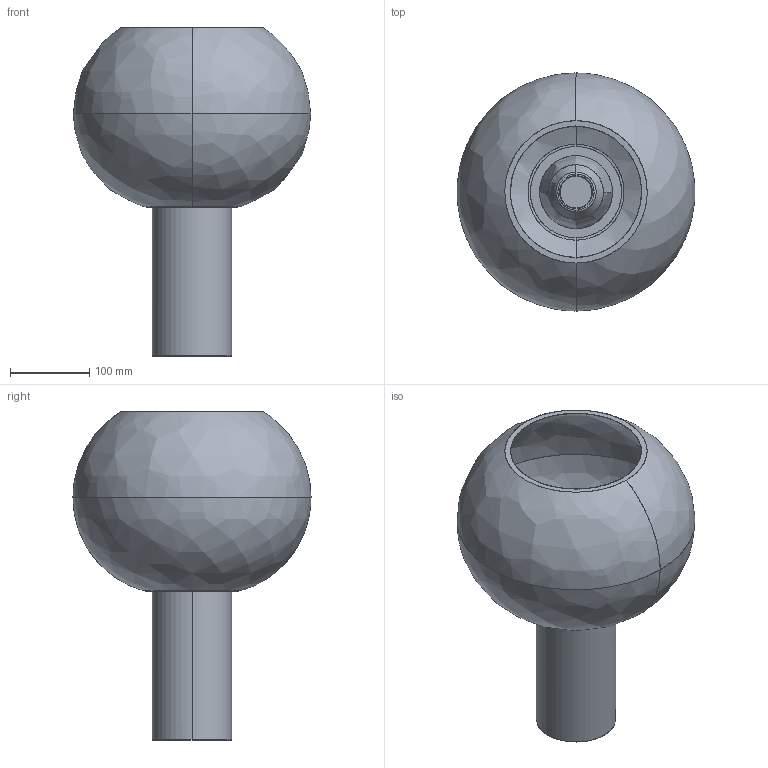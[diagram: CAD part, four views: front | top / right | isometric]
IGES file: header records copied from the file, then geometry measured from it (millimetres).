
Global section: file name: 93HF:\foscarini\RS\3D-2D\FOSCARINI\CATALOGO 2015\BUDS\3d (3ds; native system: dxf; preprocessor: stp; author: 160822.135726; organization: 0.0001D0; date: MM
Bounding box: 299.44 x 300.22 x 414 mm (x, y, z)
Surface area: 567097.8 mm2 (no closed solid volume)
Topology: 0 solids, 0 shells, 266 faces, 2699 edges, 2699 vertices
Faces by surface type: bspline 266
